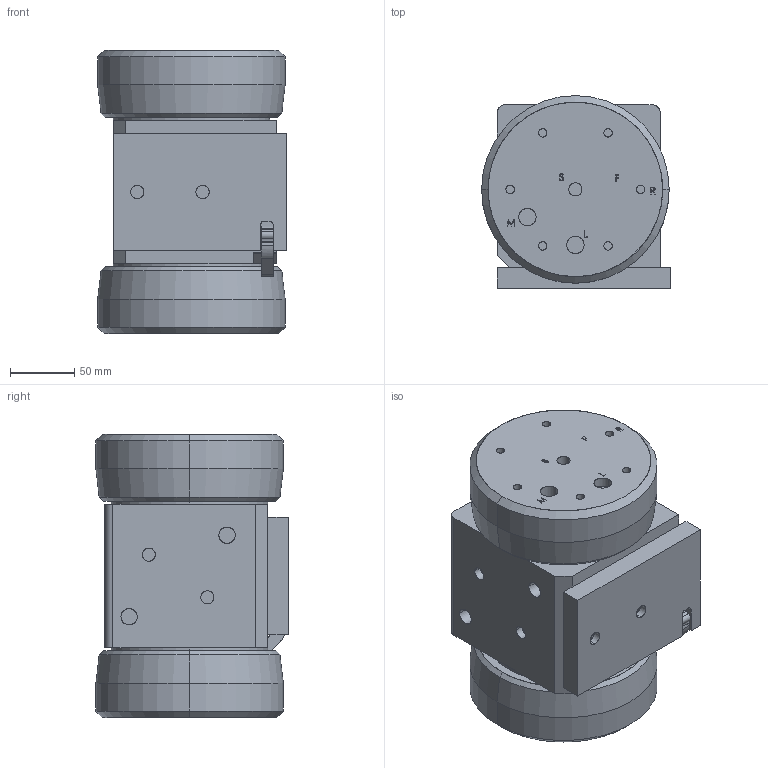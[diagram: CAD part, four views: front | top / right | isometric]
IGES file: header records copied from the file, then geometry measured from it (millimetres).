
Start section: SolidWorks IGES file using analytic representation for surfaces
Global section: file name: S:\Product Visuals\FILES FOR PUBLICATION\SOLID MODELS FOR PUBLICATION\psh060\psh060-no-shuttle\psh060-no-shuttle.IGS; native system: SolidWorks 2012; preprocessor: SolidWorks 2012; author: karen.bodily; date: 121121.143834; units: inch
Bounding box: 146.99 x 149.81 x 220.42 mm (x, y, z)
Surface area: 202318.9 mm2 (no closed solid volume)
Topology: 0 solids, 0 shells, 1027 faces, 12232 edges, 12230 vertices
Faces by surface type: bspline 878, revolution 149
